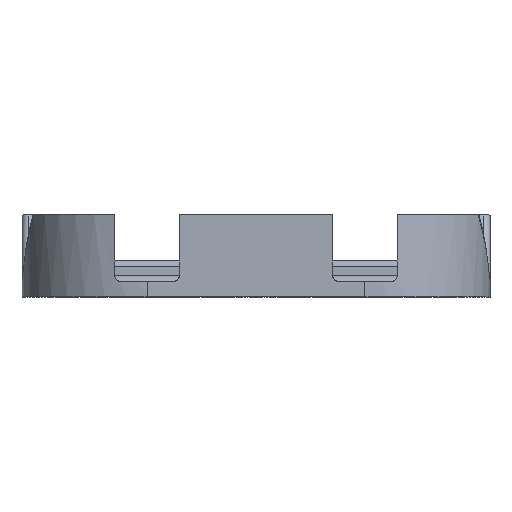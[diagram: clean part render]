
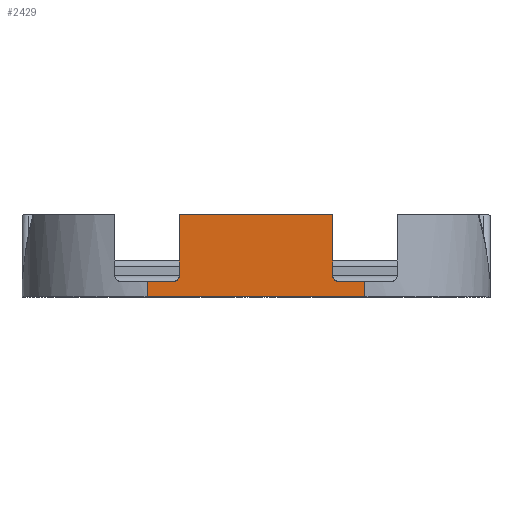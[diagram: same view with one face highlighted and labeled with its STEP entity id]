
A CAD part, top view. The second image highlights one B-rep face of the part: STEP entity #2429.
In plain terms, the highlighted planar face has unit normal (0, 0, 1).
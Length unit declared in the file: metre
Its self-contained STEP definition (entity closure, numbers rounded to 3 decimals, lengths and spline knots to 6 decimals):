
#66=LINE('',#3773,#192);
#70=LINE('',#3813,#196);
#85=LINE('',#3905,#211);
#101=LINE('',#3993,#227);
#114=LINE('',#4032,#240);
#115=LINE('',#4034,#241);
#116=LINE('',#4038,#242);
#117=LINE('',#4040,#243);
#192=VECTOR('',#2960,1.);
#196=VECTOR('',#2998,1.);
#211=VECTOR('',#3075,1.);
#227=VECTOR('',#3137,1.);
#240=VECTOR('',#3170,1.);
#241=VECTOR('',#3171,1.);
#242=VECTOR('',#3174,1.);
#243=VECTOR('',#3175,1.);
#324=PLANE('',#2677);
#521=ORIENTED_EDGE('',*,*,#1173,.F.);
#522=ORIENTED_EDGE('',*,*,#1052,.T.);
#523=ORIENTED_EDGE('',*,*,#1174,.T.);
#524=ORIENTED_EDGE('',*,*,#1175,.F.);
#525=ORIENTED_EDGE('',*,*,#1176,.T.);
#526=ORIENTED_EDGE('',*,*,#1177,.T.);
#527=ORIENTED_EDGE('',*,*,#1072,.F.);
#528=ORIENTED_EDGE('',*,*,#1154,.F.);
#529=ORIENTED_EDGE('',*,*,#1117,.F.);
#530=ORIENTED_EDGE('',*,*,#1178,.T.);
#1052=EDGE_CURVE('',#1387,#1386,#66,.T.);
#1072=EDGE_CURVE('',#1406,#1407,#70,.T.);
#1117=EDGE_CURVE('',#1451,#1452,#85,.T.);
#1154=EDGE_CURVE('',#1452,#1406,#101,.T.);
#1173=EDGE_CURVE('',#1387,#1495,#114,.T.);
#1174=EDGE_CURVE('',#1386,#1496,#115,.T.);
#1175=EDGE_CURVE('',#1497,#1496,#1690,.F.);
#1176=EDGE_CURVE('',#1497,#1498,#116,.T.);
#1177=EDGE_CURVE('',#1498,#1407,#117,.T.);
#1178=EDGE_CURVE('',#1451,#1495,#1691,.F.);
#1386=VERTEX_POINT('',#3772);
#1387=VERTEX_POINT('',#3774);
#1406=VERTEX_POINT('',#3814);
#1407=VERTEX_POINT('',#3815);
#1451=VERTEX_POINT('',#3904);
#1452=VERTEX_POINT('',#3906);
#1495=VERTEX_POINT('',#4033);
#1496=VERTEX_POINT('',#4035);
#1497=VERTEX_POINT('',#4037);
#1498=VERTEX_POINT('',#4039);
#1690=CIRCLE('',#2678,0.003);
#1691=CIRCLE('',#2679,0.003);
#1856=EDGE_LOOP('',(#521,#522,#523,#524,#525,#526,#527,#528,#529,#530));
#2126=FACE_BOUND('',#1856,.T.);
#2429=ADVANCED_FACE('',(#2126),#324,.T.);
#2677=AXIS2_PLACEMENT_3D('',#4031,#3168,#3169);
#2678=AXIS2_PLACEMENT_3D('',#4036,#3172,#3173);
#2679=AXIS2_PLACEMENT_3D('',#4041,#3176,#3177);
#2960=DIRECTION('',(-1.,0.,0.));
#2998=DIRECTION('',(-1.,0.,0.));
#3075=DIRECTION('',(1.,0.,0.));
#3137=DIRECTION('',(0.,-1.,0.));
#3168=DIRECTION('',(0.,0.,1.));
#3169=DIRECTION('',(0.,-1.,0.));
#3170=DIRECTION('',(0.,-1.,0.));
#3171=DIRECTION('',(0.,-1.,0.));
#3172=DIRECTION('',(0.,0.,-1.));
#3173=DIRECTION('',(0.,-1.,0.));
#3174=DIRECTION('',(-1.,0.,0.));
#3175=DIRECTION('',(0.,-1.,0.));
#3176=DIRECTION('',(0.,0.,1.));
#3177=DIRECTION('',(0.,-1.,0.));
#3772=CARTESIAN_POINT('',(-0.086,0.038,0.03));
#3773=CARTESIAN_POINT('',(-0.029,0.038,0.03));
#3774=CARTESIAN_POINT('',(-0.015,0.038,0.03));
#3813=CARTESIAN_POINT('',(-0.029,0.,0.03));
#3814=CARTESIAN_POINT('',(0.,0.,0.03));
#3815=CARTESIAN_POINT('',(-0.101,0.,0.03));
#3904=CARTESIAN_POINT('',(-0.012,0.007,0.03));
#3905=CARTESIAN_POINT('',(0.,0.007,0.03));
#3906=CARTESIAN_POINT('',(0.,0.007,0.03));
#3993=CARTESIAN_POINT('',(0.,0.007,0.03));
#4031=CARTESIAN_POINT('',(-0.029,0.007,0.03));
#4032=CARTESIAN_POINT('',(-0.015,0.0225,0.03));
#4033=CARTESIAN_POINT('',(-0.015,0.01,0.03));
#4034=CARTESIAN_POINT('',(-0.086,0.0225,0.03));
#4035=CARTESIAN_POINT('',(-0.086,0.01,0.03));
#4036=CARTESIAN_POINT('',(-0.089,0.01,0.03));
#4037=CARTESIAN_POINT('',(-0.089,0.007,0.03));
#4038=CARTESIAN_POINT('',(-0.101,0.007,0.03));
#4039=CARTESIAN_POINT('',(-0.101,0.007,0.03));
#4040=CARTESIAN_POINT('',(-0.101,0.007,0.03));
#4041=CARTESIAN_POINT('',(-0.012,0.01,0.03));
